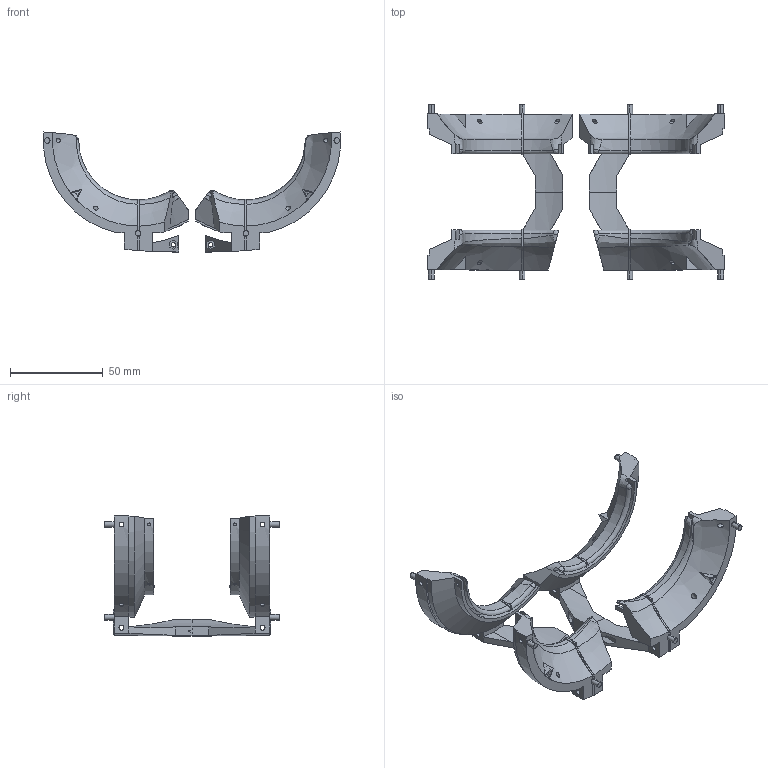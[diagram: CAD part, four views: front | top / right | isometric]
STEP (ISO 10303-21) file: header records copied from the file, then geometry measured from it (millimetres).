
FILE_DESCRIPTION (( 'STEP AP214' ), '1' );
FILE_NAME ('HoldersP10.STEP', '2019-08-28T22:18:34', ( '' ), ( '' ), 'SwSTEP 2.0', 'SolidWorks 2019', '' );
FILE_SCHEMA (( 'AUTOMOTIVE_DESIGN' ));
Length unit declared in the file: millimetre
Products named in the file (1): HoldersP10
Bounding box: 160.3 x 94 x 64.72 mm (x, y, z)
Volume: 79336.2 mm3; surface area: 39514.3 mm2
Topology: 4 solids, 4 shells, 432 faces, 1189 edges, 777 vertices
Faces by surface type: plane 218, cylinder 162, bspline 36, cone 8, torus 8
Entity records: 20398 total; most frequent: CARTESIAN_POINT 9790, ORIENTED_EDGE 2378, DIRECTION 1926, EDGE_CURVE 1189, VERTEX_POINT 777, AXIS2_PLACEMENT_3D 649, LINE 628, VECTOR 628
